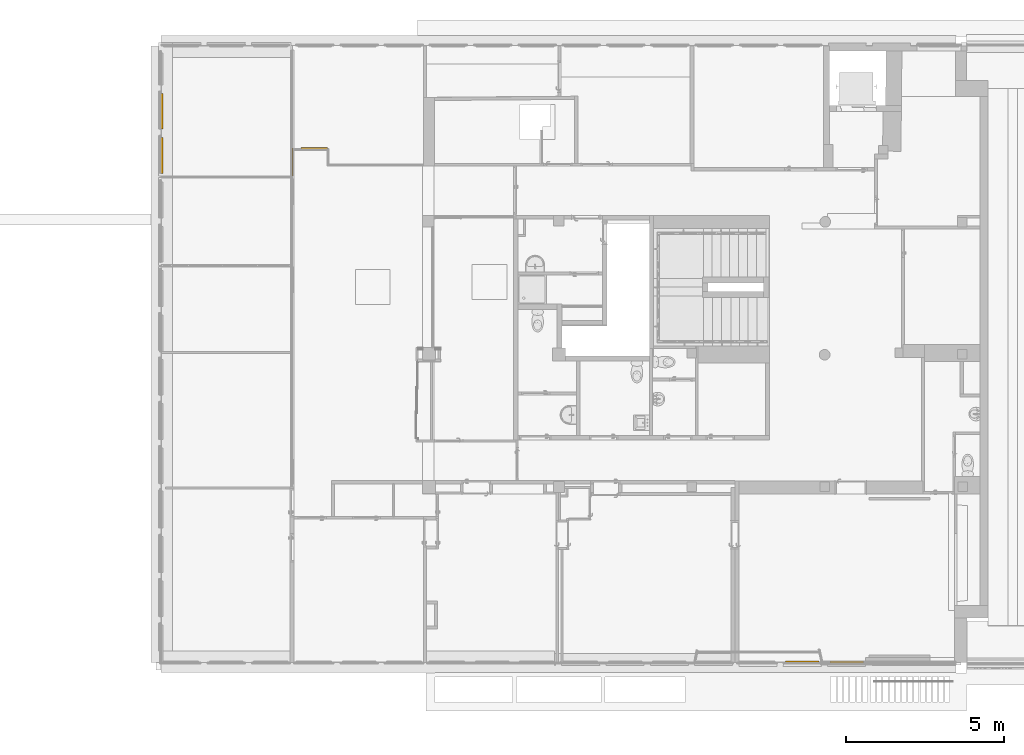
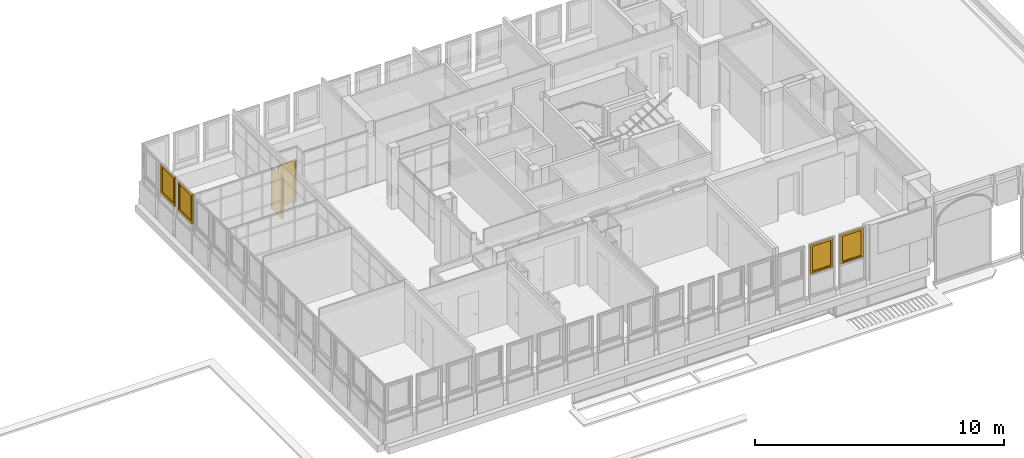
# One storey, part 86 of 97: 4 windows, 2 doors, 6 elements without a shape of their own.
"""IFC4 building model written with IfcOpenShell, lengths in metres."""

from ifc_helpers import new_model, entity, si_unit, converted_unit, derived_unit, direction, frame, origin, place, context, subcontext, project, spatial, indexed_curve, outline, extrude, polygons, source, transform, mapped, material, material_list, constituent, constituent_set, type_object, type_shapes, element, aggregate, save


model = new_model("IFC4")

# Units and contexts
model_context = context("Model", 3, precision=1e-05, world=origin(), true_north=direction((6.12303176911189e-17, 1.0)))
body_context = subcontext(model_context, "Body", "Model", "MODEL_VIEW")
ifc_project = project(units=[si_unit("LENGTHUNIT", "METRE"), si_unit("AREAUNIT", "SQUARE_METRE"), si_unit("VOLUMEUNIT", "CUBIC_METRE"), converted_unit("PLANEANGLEUNIT", "DEGREE", entity("IfcRatioMeasure", 0.0174532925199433), si_unit("PLANEANGLEUNIT", "RADIAN"), dimensions=[0, 0, 0, 0, 0, 0, 0]), si_unit("MASSUNIT", "GRAM", prefix="KILO"), derived_unit("MASSDENSITYUNIT", [(si_unit("MASSUNIT", "GRAM", prefix="KILO"), 1), (si_unit("LENGTHUNIT", "METRE"), -3)]), derived_unit("MOMENTOFINERTIAUNIT", [(si_unit("LENGTHUNIT", "METRE"), 4)]), si_unit("TIMEUNIT", "SECOND"), si_unit("FREQUENCYUNIT", "HERTZ"), si_unit("THERMODYNAMICTEMPERATUREUNIT", "DEGREE_CELSIUS"), derived_unit("THERMALTRANSMITTANCEUNIT", [(si_unit("MASSUNIT", "GRAM", prefix="KILO"), 1), (si_unit("THERMODYNAMICTEMPERATUREUNIT", "KELVIN"), -1), (si_unit("TIMEUNIT", "SECOND"), -3)]), derived_unit("VOLUMETRICFLOWRATEUNIT", [(si_unit("LENGTHUNIT", "METRE"), 3), (si_unit("TIMEUNIT", "SECOND"), -1)]), si_unit("ELECTRICCURRENTUNIT", "AMPERE"), si_unit("ELECTRICVOLTAGEUNIT", "VOLT"), si_unit("POWERUNIT", "WATT"), si_unit("FORCEUNIT", "NEWTON", prefix="KILO"), si_unit("ILLUMINANCEUNIT", "LUX"), si_unit("LUMINOUSFLUXUNIT", "LUMEN"), si_unit("LUMINOUSINTENSITYUNIT", "CANDELA"), derived_unit("USERDEFINED", [(si_unit("MASSUNIT", "GRAM", prefix="KILO"), -1), (si_unit("LENGTHUNIT", "METRE"), -2), (si_unit("TIMEUNIT", "SECOND"), 3), (si_unit("LUMINOUSFLUXUNIT", "LUMEN"), 1)]), derived_unit("LINEARVELOCITYUNIT", [(si_unit("LENGTHUNIT", "METRE"), 1), (si_unit("TIMEUNIT", "SECOND"), -1)]), si_unit("PRESSUREUNIT", "PASCAL"), derived_unit("USERDEFINED", [(si_unit("LENGTHUNIT", "METRE"), -2), (si_unit("MASSUNIT", "GRAM", prefix="KILO"), 1), (si_unit("TIMEUNIT", "SECOND"), -2)]), derived_unit("LINEARFORCEUNIT", [(si_unit("MASSUNIT", "GRAM", prefix="KILO"), 1), (si_unit("LENGTHUNIT", "METRE"), 1), (si_unit("TIMEUNIT", "SECOND"), -2), (si_unit("LENGTHUNIT", "METRE"), -1)]), derived_unit("PLANARFORCEUNIT", [(si_unit("MASSUNIT", "GRAM", prefix="KILO"), 1), (si_unit("LENGTHUNIT", "METRE"), 1), (si_unit("TIMEUNIT", "SECOND"), -2), (si_unit("LENGTHUNIT", "METRE"), -2)])], contexts=[model_context])

# Site, building, storey
site_placement = place(None, origin())
site = spatial("IfcSite", under=ifc_project, at=site_placement, Name="Default", CompositionType="ELEMENT")
building_placement = place(site_placement, origin())
building = spatial("IfcBuilding", under=site, at=building_placement, Name="HOTEL CONSULAIRE BOULOGNE SUR MER", CompositionType="ELEMENT")
storey_placement = place(building_placement, frame((0.0, 0.0, 3.62152697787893)))
storey = spatial("IfcBuildingStorey", under=building, at=storey_placement, Name="Niveau 1", CompositionType="ELEMENT", Elevation=3.62152697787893)

# Curtain wall, window
curtain_wall_type = type_object("IfcCurtainWallType", Name="Mur-rideau:Simple panneau", PredefinedType="NOTDEFINED")
curtain_wall_1_placement = place(storey_placement, frame((0.0, 0.0, -3.62152697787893)))
curtain_wall_1 = element("IfcCurtainWall", 1, at=curtain_wall_1_placement, inside=storey, type_object=curtain_wall_type, Name="Mur-rideau:Simple panneau", ObjectType="Mur-rideau:Simple panneau", PredefinedType="NOTDEFINED")
ifc_material_1 = material(Name="PVC - Blanc", Category="Plastique")
ifc_constituent_1 = constituent(ifc_material_1, Name="PVC - Blanc", Category="Matériaux")
ifc_material_2 = material(Name="Fenêtre - Vitrage", Category="Verre")
ifc_constituent_2 = constituent(ifc_material_2, Name="Fenêtre - Vitrage", Category="Matériaux")
ifc_constituent_set_1 = constituent_set(constituents=[ifc_constituent_1, ifc_constituent_2], Name="MaterialConstituentSet")
ifc_material_list_1 = material_list([ifc_material_1, ifc_material_1])
window_type_1 = type_object("IfcWindowType", Name="MR 1 Vantail:MR 1 Vantail", PartitioningType="NOTDEFINED", PredefinedType="WINDOW", material=ifc_material_list_1)
shared_shape_1 = source(origin(), body_context, "Body", "Tessellation", [
    polygons([(-0.495646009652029, -0.0492408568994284, 0.472033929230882), (-0.484353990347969, -0.0492408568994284, 0.472033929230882), (-0.482966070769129, -0.0492408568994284, 0.470646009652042), (-0.482966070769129, -0.0492408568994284, 0.459332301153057), (-0.484332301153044, -0.0492408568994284, 0.457966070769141), (-0.495667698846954, -0.0492408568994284, 0.457966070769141), (-0.497033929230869, -0.0492408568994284, 0.459332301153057), (-0.497033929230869, -0.0492408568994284, 0.470646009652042), (-0.497033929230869, -0.0615795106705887, 0.470646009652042), (-0.495646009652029, -0.0621544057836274, 0.472033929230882), (-0.497033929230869, -0.0568932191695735, 0.459332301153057), (-0.497033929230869, -0.0635731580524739, 0.452652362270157), (-0.497033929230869, -0.0635731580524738, 0.370000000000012), (-0.497033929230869, -0.0748868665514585, 0.370000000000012), (-0.497033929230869, -0.0748868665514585, 0.457338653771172), (-0.495667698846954, -0.0563273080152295, 0.457966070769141), (-0.484332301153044, -0.0563273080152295, 0.457966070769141), (-0.482966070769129, -0.0568932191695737, 0.459332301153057), (-0.482966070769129, -0.0615795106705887, 0.470646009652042), (-0.482966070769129, -0.0748868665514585, 0.457338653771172), (-0.482966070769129, -0.0748868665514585, 0.370000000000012), (-0.482966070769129, -0.0635731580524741, 0.370000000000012), (-0.482966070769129, -0.0635731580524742, 0.452652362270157), (-0.484353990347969, -0.0621544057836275, 0.472033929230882), (-0.495646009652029, -0.0762747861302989, 0.457913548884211), (-0.495667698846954, -0.0622069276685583, 0.452086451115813), (-0.484332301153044, -0.0622069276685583, 0.452086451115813), (-0.484353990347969, -0.0762747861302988, 0.457913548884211), (-0.495646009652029, -0.0762747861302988, 0.370000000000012), (-0.495667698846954, -0.0622069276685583, 0.370000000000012), (-0.484332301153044, -0.0622069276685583, 0.370000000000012), (-0.484353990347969, -0.0762747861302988, 0.370000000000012)], [[[6, 7, 8, 1, 2, 3, 4, 5]], [[30, 26, 27, 31]], [[9, 10, 1, 8]], [[11, 12, 13, 14, 15, 9, 8, 7]], [[16, 11, 7, 6]], [[16, 6, 5, 17]], [[31, 22, 21, 32, 29, 14, 13, 30]], [[17, 5, 4, 18]], [[3, 19, 20, 21, 22, 23, 18, 4]], [[19, 3, 2, 24]], [[24, 2, 1, 10]], [[15, 25, 10, 9]], [[26, 12, 11, 16]], [[27, 26, 16, 17]], [[27, 17, 18, 23]], [[20, 19, 24, 28]], [[28, 24, 10, 25]], [[29, 25, 15, 14]], [[13, 12, 26, 30]], [[22, 31, 27, 23]], [[32, 21, 20, 28]], [[32, 28, 25, 29]]], closed=True),
    polygons([(-0.497000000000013, -0.0432408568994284, 0.490000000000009), (-0.482999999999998, -0.0432408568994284, 0.490000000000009), (-0.477999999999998, -0.0432408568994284, 0.48500000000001), (-0.477999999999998, -0.0432408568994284, 0.414999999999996), (-0.482999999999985, -0.0432408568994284, 0.410000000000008), (-0.497000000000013, -0.0432408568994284, 0.410000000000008), (-0.501999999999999, -0.0432408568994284, 0.414999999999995), (-0.501999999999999, -0.0432408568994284, 0.48500000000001), (-0.497000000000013, -0.0492408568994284, 0.490000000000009), (-0.501999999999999, -0.0492408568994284, 0.48500000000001), (-0.501999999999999, -0.0492408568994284, 0.414999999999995), (-0.497000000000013, -0.0492408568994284, 0.410000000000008), (-0.482999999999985, -0.0492408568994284, 0.410000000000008), (-0.477999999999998, -0.0492408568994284, 0.414999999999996), (-0.477999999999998, -0.0492408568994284, 0.48500000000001), (-0.482999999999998, -0.0492408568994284, 0.490000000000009)], [[[2, 3, 4, 5, 6, 7, 8, 1]], [[13, 14, 15, 16, 9, 10, 11, 12]], [[9, 1, 8, 10]], [[10, 8, 7, 11]], [[11, 7, 6, 12]], [[12, 6, 5, 13]], [[13, 5, 4, 14]], [[15, 14, 4, 3]], [[15, 3, 2, 16]], [[16, 2, 1, 9]]], closed=True),
    polygons([(0.465000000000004, -0.0192408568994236, 1.32586048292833), (-0.465000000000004, -0.0192408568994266, 1.32586048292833), (-0.465000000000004, -0.0192408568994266, 0.0999999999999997), (0.465000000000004, -0.0192408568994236, 0.0999999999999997), (0.465000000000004, -0.00724085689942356, 1.32586048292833), (0.465000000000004, -0.00724085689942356, 0.0999999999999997), (-0.465000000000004, -0.00724085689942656, 0.0999999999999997), (-0.465000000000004, -0.00724085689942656, 1.32586048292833)], [[[4, 1, 2, 3]], [[7, 8, 5, 6]], [[2, 1, 5, 8]], [[3, 2, 8, 7]], [[4, 3, 7, 6]], [[1, 4, 6, 5]]], closed=True),
    polygons([(-0.515000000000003, 0.0167591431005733, 1.37586048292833), (-0.515000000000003, -0.043240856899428, 1.37586048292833), (0.515000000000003, -0.043240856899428, 1.37586048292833), (0.515000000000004, 0.0167591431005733, 1.37586048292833), (-0.465000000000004, -0.043240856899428, 1.32586048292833), (-0.465000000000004, 0.0167591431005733, 1.32586048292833), (0.465000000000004, 0.0167591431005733, 1.32586048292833), (0.465000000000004, -0.043240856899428, 1.32586048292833), (0.515000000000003, -0.043240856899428, 0.0500000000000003), (0.515000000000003, 0.0167591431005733, 0.0500000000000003), (0.465000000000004, 0.0167591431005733, 0.0999999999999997), (0.465000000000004, -0.043240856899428, 0.0999999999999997), (-0.515000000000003, -0.043240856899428, 0.0500000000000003), (-0.515000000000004, 0.0167591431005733, 0.0500000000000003), (-0.465000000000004, 0.0167591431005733, 0.0999999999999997), (-0.465000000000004, -0.043240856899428, 0.0999999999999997)], [[[1, 2, 3, 4]], [[12, 11, 15, 16]], [[5, 6, 7, 8]], [[10, 9, 13, 14]], [[4, 3, 9, 10]], [[16, 15, 6, 5]], [[8, 7, 11, 12]], [[14, 13, 2, 1]], [[9, 3, 2, 13], [16, 5, 8, 12]], [[14, 1, 4, 10], [11, 7, 6, 15]]], closed=True),
    polygons([(-0.505000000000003, 0.016759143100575, 1.36586048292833), (-0.505000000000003, 0.0267591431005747, 1.36586048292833), (0.505000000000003, 0.0267591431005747, 1.36586048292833), (0.505000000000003, 0.016759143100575, 1.36586048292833), (-0.515000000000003, -0.0432408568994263, 1.37586048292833), (-0.515000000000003, 0.016759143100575, 1.37586048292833), (0.515000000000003, 0.016759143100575, 1.37586048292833), (0.515000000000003, -0.0432408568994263, 1.37586048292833), (-0.565000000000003, 0.0267591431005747, 1.42586048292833), (-0.565000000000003, -0.0432408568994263, 1.42586048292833), (0.565000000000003, -0.0432408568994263, 1.42586048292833), (0.565000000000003, 0.0267591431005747, 1.42586048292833), (0.505000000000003, 0.0267591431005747, 0.0600000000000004), (0.505000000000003, 0.016759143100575, 0.0600000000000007), (0.515000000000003, 0.016759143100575, 0.0500000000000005), (0.515000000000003, -0.0432408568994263, 0.0500000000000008), (0.565000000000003, -0.0432408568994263, 5.41433564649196e-16), (0.565000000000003, 0.0267591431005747, 5.41433564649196e-16), (-0.505000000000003, 0.0267591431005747, 0.0600000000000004), (-0.505000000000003, 0.016759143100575, 0.0600000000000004), (-0.515000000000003, 0.016759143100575, 0.0500000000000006), (-0.515000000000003, -0.0432408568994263, 0.0500000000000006), (-0.565000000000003, -0.0432408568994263, 5.41433564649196e-16), (-0.565000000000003, 0.0267591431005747, 5.41433564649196e-16)], [[[1, 2, 3, 4]], [[5, 6, 7, 8]], [[18, 17, 23, 24]], [[9, 10, 11, 12]], [[14, 13, 19, 20]], [[16, 15, 21, 22]], [[4, 3, 13, 14]], [[8, 7, 15, 16]], [[24, 23, 10, 9]], [[12, 11, 17, 18]], [[20, 19, 2, 1]], [[22, 21, 6, 5]], [[24, 9, 12, 18], [13, 3, 2, 19]], [[15, 7, 6, 21], [20, 1, 4, 14]], [[17, 11, 10, 23], [22, 5, 8, 16]]], closed=True),
])
type_shapes(window_type_1, [shared_shape_1])
window_1_placement = place(curtain_wall_1_placement, frame((-13.7870998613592, -13.5464499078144, 4.79613951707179), z_axis=(0.0, 0.0, 1.0), x_axis=(0.0, 1.0, 0.0)))
window_1 = element("IfcWindow", 2, at=window_1_placement, type_object=window_type_1, material=ifc_constituent_set_1, Name="MR 1 Vantail:MR 1 Vantail", ObjectType="MR 1 Vantail:MR 1 Vantail", OverallHeight=1.42586048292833, OverallWidth=1.13000000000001, PartitioningType="NOTDEFINED", PredefinedType="WINDOW", context=body_context, shape_type="MappedRepresentation", body=[
    mapped(shared_shape_1, transform((0.0, 0.0, 0.0), scale=1.0)),
])
aggregate(curtain_wall_1, [window_1])

curtain_wall_2_placement = place(storey_placement, frame((0.0, 0.0, -3.62152697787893)))
curtain_wall_2 = element("IfcCurtainWall", 3, at=curtain_wall_2_placement, inside=storey, type_object=curtain_wall_type, Name="Mur-rideau:Simple panneau", ObjectType="Mur-rideau:Simple panneau", PredefinedType="NOTDEFINED")
ifc_constituent_3 = constituent(ifc_material_1, Name="PVC - Blanc", Category="Matériaux")
ifc_constituent_4 = constituent(ifc_material_2, Name="Fenêtre - Vitrage", Category="Matériaux")
ifc_constituent_set_2 = constituent_set(constituents=[ifc_constituent_3, ifc_constituent_4], Name="MaterialConstituentSet")
window_2_placement = place(curtain_wall_2_placement, frame((-13.7870998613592, -12.1464499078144, 4.79613951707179), z_axis=(0.0, 0.0, 1.0), x_axis=(0.0, 1.0, 0.0)))
window_2 = element("IfcWindow", 4, at=window_2_placement, type_object=window_type_1, material=ifc_constituent_set_2, Name="MR 1 Vantail:MR 1 Vantail", ObjectType="MR 1 Vantail:MR 1 Vantail", OverallHeight=1.42586048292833, OverallWidth=1.13000000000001, PartitioningType="NOTDEFINED", PredefinedType="WINDOW", context=body_context, shape_type="MappedRepresentation", body=[
    mapped(shared_shape_1, transform((0.0, 0.0, 0.0), scale=1.0)),
])
aggregate(curtain_wall_2, [window_2])

curtain_wall_3_placement = place(storey_placement, frame((0.0, 0.0, -3.62152697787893)))
curtain_wall_3 = element("IfcCurtainWall", 5, at=curtain_wall_3_placement, inside=storey, type_object=curtain_wall_type, Name="Mur-rideau:Simple panneau", ObjectType="Mur-rideau:Simple panneau", PredefinedType="NOTDEFINED")
ifc_constituent_5 = constituent(ifc_material_1, Name="PVC - Blanc", Category="Matériaux")
ifc_constituent_6 = constituent(ifc_material_2, Name="Fenêtre - Vitrage", Category="Matériaux")
ifc_constituent_set_3 = constituent_set(constituents=[ifc_constituent_5, ifc_constituent_6], Name="MaterialConstituentSet")
ifc_material_list_2 = material_list([ifc_material_1, ifc_material_1])
window_type_2 = type_object("IfcWindowType", Name="MR 1 Vantail:MR 1 Vantail", PartitioningType="NOTDEFINED", PredefinedType="WINDOW", material=ifc_material_list_2)
shared_shape_2 = source(origin(), body_context, "Body", "Tessellation", [
    polygons([(-0.460646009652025, -0.0492408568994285, 0.472033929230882), (-0.449353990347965, -0.0492408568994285, 0.472033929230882), (-0.447966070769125, -0.0492408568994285, 0.470646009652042), (-0.447966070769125, -0.0492408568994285, 0.459332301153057), (-0.44933230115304, -0.0492408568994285, 0.457966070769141), (-0.46066769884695, -0.0492408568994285, 0.457966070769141), (-0.462033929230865, -0.0492408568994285, 0.459332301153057), (-0.462033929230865, -0.0492408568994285, 0.470646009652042), (-0.462033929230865, -0.0615795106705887, 0.470646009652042), (-0.460646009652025, -0.0621544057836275, 0.472033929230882), (-0.462033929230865, -0.0568932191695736, 0.459332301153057), (-0.462033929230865, -0.063573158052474, 0.452652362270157), (-0.462033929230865, -0.0635731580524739, 0.370000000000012), (-0.462033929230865, -0.0748868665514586, 0.370000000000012), (-0.462033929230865, -0.0748868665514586, 0.457338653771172), (-0.46066769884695, -0.0563273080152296, 0.457966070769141), (-0.44933230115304, -0.0563273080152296, 0.457966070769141), (-0.447966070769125, -0.0568932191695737, 0.459332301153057), (-0.447966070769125, -0.0615795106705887, 0.470646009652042), (-0.447966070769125, -0.0748868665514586, 0.457338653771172), (-0.447966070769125, -0.0748868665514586, 0.370000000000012), (-0.447966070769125, -0.0635731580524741, 0.370000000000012), (-0.447966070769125, -0.0635731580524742, 0.452652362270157), (-0.449353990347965, -0.0621544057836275, 0.472033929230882), (-0.460646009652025, -0.0762747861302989, 0.457913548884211), (-0.46066769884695, -0.0622069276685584, 0.452086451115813), (-0.44933230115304, -0.0622069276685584, 0.452086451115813), (-0.449353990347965, -0.0762747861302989, 0.457913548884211), (-0.460646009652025, -0.0762747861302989, 0.370000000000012), (-0.46066769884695, -0.0622069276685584, 0.370000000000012), (-0.44933230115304, -0.0622069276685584, 0.370000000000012), (-0.449353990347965, -0.0762747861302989, 0.370000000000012)], [[[6, 7, 8, 1, 2, 3, 4, 5]], [[30, 26, 27, 31]], [[9, 10, 1, 8]], [[11, 12, 13, 14, 15, 9, 8, 7]], [[16, 11, 7, 6]], [[16, 6, 5, 17]], [[31, 22, 21, 32, 29, 14, 13, 30]], [[17, 5, 4, 18]], [[3, 19, 20, 21, 22, 23, 18, 4]], [[19, 3, 2, 24]], [[24, 2, 1, 10]], [[15, 25, 10, 9]], [[26, 12, 11, 16]], [[27, 26, 16, 17]], [[27, 17, 18, 23]], [[20, 19, 24, 28]], [[28, 24, 10, 25]], [[29, 25, 15, 14]], [[13, 12, 26, 30]], [[22, 31, 27, 23]], [[32, 21, 20, 28]], [[32, 28, 25, 29]]], closed=True),
    polygons([(-0.462000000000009, -0.0432408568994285, 0.490000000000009), (-0.447999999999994, -0.0432408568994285, 0.490000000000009), (-0.442999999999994, -0.0432408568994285, 0.48500000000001), (-0.442999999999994, -0.0432408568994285, 0.414999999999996), (-0.447999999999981, -0.0432408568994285, 0.410000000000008), (-0.462000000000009, -0.0432408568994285, 0.410000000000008), (-0.466999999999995, -0.0432408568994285, 0.414999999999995), (-0.466999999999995, -0.0432408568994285, 0.48500000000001), (-0.462000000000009, -0.0492408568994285, 0.490000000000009), (-0.466999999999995, -0.0492408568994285, 0.48500000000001), (-0.466999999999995, -0.0492408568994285, 0.414999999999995), (-0.462000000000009, -0.0492408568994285, 0.410000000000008), (-0.447999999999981, -0.0492408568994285, 0.410000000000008), (-0.442999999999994, -0.0492408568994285, 0.414999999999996), (-0.442999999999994, -0.0492408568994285, 0.48500000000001), (-0.447999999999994, -0.0492408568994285, 0.490000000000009)], [[[2, 3, 4, 5, 6, 7, 8, 1]], [[13, 14, 15, 16, 9, 10, 11, 12]], [[9, 1, 8, 10]], [[10, 8, 7, 11]], [[11, 7, 6, 12]], [[12, 6, 5, 13]], [[13, 5, 4, 14]], [[15, 14, 4, 3]], [[15, 3, 2, 16]], [[16, 2, 1, 9]]], closed=True),
    polygons([(0.43, -0.0192408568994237, 1.32537070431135), (-0.43, -0.0192408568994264, 1.32537070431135), (-0.43, -0.0192408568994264, 0.1), (0.43, -0.0192408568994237, 0.1), (0.43, -0.00724085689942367, 1.32537070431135), (0.43, -0.00724085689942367, 0.1), (-0.43, -0.00724085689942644, 0.1), (-0.43, -0.00724085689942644, 1.32537070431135)], [[[4, 1, 2, 3]], [[7, 8, 5, 6]], [[2, 1, 5, 8]], [[3, 2, 8, 7]], [[4, 3, 7, 6]], [[1, 4, 6, 5]]], closed=True),
    polygons([(-0.48, 0.0167591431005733, 1.37537070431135), (-0.48, -0.043240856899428, 1.37537070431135), (0.479999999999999, -0.043240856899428, 1.37537070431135), (0.479999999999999, 0.0167591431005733, 1.37537070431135), (-0.43, -0.043240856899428, 1.32537070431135), (-0.43, 0.0167591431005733, 1.32537070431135), (0.43, 0.0167591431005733, 1.32537070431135), (0.43, -0.043240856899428, 1.32537070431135), (0.479999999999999, -0.043240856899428, 0.0500000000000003), (0.479999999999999, 0.0167591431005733, 0.0500000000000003), (0.43, 0.0167591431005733, 0.1), (0.43, -0.043240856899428, 0.1), (-0.48, -0.043240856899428, 0.0500000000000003), (-0.479999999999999, 0.0167591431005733, 0.0500000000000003), (-0.43, 0.0167591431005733, 0.1), (-0.43, -0.043240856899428, 0.1)], [[[1, 2, 3, 4]], [[12, 11, 15, 16]], [[5, 6, 7, 8]], [[10, 9, 13, 14]], [[4, 3, 9, 10]], [[16, 15, 6, 5]], [[8, 7, 11, 12]], [[14, 13, 2, 1]], [[9, 3, 2, 13], [16, 5, 8, 12]], [[14, 1, 4, 10], [11, 7, 6, 15]]], closed=True),
    polygons([(-0.469999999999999, 0.016759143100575, 1.36537070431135), (-0.469999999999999, 0.0267591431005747, 1.36537070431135), (0.469999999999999, 0.0267591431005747, 1.36537070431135), (0.469999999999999, 0.016759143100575, 1.36537070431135), (-0.479999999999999, -0.0432408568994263, 1.37537070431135), (-0.479999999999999, 0.016759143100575, 1.37537070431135), (0.479999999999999, 0.016759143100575, 1.37537070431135), (0.479999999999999, -0.0432408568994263, 1.37537070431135), (-0.529999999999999, 0.0267591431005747, 1.42537070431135), (-0.529999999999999, -0.0432408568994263, 1.42537070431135), (0.529999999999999, -0.0432408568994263, 1.42537070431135), (0.529999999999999, 0.0267591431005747, 1.42537070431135), (0.469999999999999, 0.0267591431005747, 0.0600000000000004), (0.469999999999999, 0.016759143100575, 0.0600000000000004), (0.479999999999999, 0.016759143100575, 0.0500000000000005), (0.479999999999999, -0.0432408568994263, 0.0500000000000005), (0.529999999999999, -0.0432408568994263, 5.41433564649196e-16), (0.529999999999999, 0.0267591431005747, 5.41433564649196e-16), (-0.469999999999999, 0.0267591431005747, 0.0600000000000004), (-0.469999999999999, 0.016759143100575, 0.0600000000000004), (-0.479999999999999, 0.016759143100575, 0.0500000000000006), (-0.479999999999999, -0.0432408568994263, 0.0500000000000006), (-0.529999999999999, -0.0432408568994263, 5.41433564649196e-16), (-0.529999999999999, 0.0267591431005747, 5.41433564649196e-16)], [[[1, 2, 3, 4]], [[5, 6, 7, 8]], [[18, 17, 23, 24]], [[9, 10, 11, 12]], [[14, 13, 19, 20]], [[16, 15, 21, 22]], [[4, 3, 13, 14]], [[8, 7, 15, 16]], [[24, 23, 10, 9]], [[12, 11, 17, 18]], [[20, 19, 2, 1]], [[22, 21, 6, 5]], [[24, 9, 12, 18], [13, 3, 2, 19]], [[15, 7, 6, 21], [20, 1, 4, 14]], [[17, 11, 10, 23], [22, 5, 8, 16]]], closed=True),
])
type_shapes(window_type_2, [shared_shape_2])
window_3_placement = place(curtain_wall_3_placement, frame((6.45858002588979, -29.5501047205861, 4.79662929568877), z_axis=(0.0, 0.0, 1.0), x_axis=(-1.0, 0.0, 0.0)))
window_3 = element("IfcWindow", 6, at=window_3_placement, type_object=window_type_2, material=ifc_constituent_set_3, Name="MR 1 Vantail:MR 1 Vantail", ObjectType="MR 1 Vantail:MR 1 Vantail", OverallHeight=1.42537070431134, OverallWidth=1.06, PartitioningType="NOTDEFINED", PredefinedType="WINDOW", context=body_context, shape_type="MappedRepresentation", body=[
    mapped(shared_shape_2, transform((0.0, 0.0, 0.0), scale=1.0)),
])
aggregate(curtain_wall_3, [window_3])

curtain_wall_4_placement = place(storey_placement, frame((0.0, 0.0, -3.62152697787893)))
curtain_wall_4 = element("IfcCurtainWall", 7, at=curtain_wall_4_placement, inside=storey, type_object=curtain_wall_type, Name="Mur-rideau:Simple panneau", ObjectType="Mur-rideau:Simple panneau", PredefinedType="NOTDEFINED")
ifc_constituent_7 = constituent(ifc_material_1, Name="PVC - Blanc", Category="Matériaux")
ifc_constituent_8 = constituent(ifc_material_2, Name="Fenêtre - Vitrage", Category="Matériaux")
ifc_constituent_set_4 = constituent_set(constituents=[ifc_constituent_7, ifc_constituent_8], Name="MaterialConstituentSet")
window_4_placement = place(curtain_wall_4_placement, frame((7.85858002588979, -29.5501047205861, 4.79662929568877), z_axis=(0.0, 0.0, 1.0), x_axis=(-1.0, 0.0, 0.0)))
window_4 = element("IfcWindow", 8, at=window_4_placement, type_object=window_type_2, material=ifc_constituent_set_4, Name="MR 1 Vantail:MR 1 Vantail", ObjectType="MR 1 Vantail:MR 1 Vantail", OverallHeight=1.42537070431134, OverallWidth=1.06, PartitioningType="NOTDEFINED", PredefinedType="WINDOW", context=body_context, shape_type="MappedRepresentation", body=[
    mapped(shared_shape_2, transform((0.0, 0.0, 0.0), scale=1.0)),
])
aggregate(curtain_wall_4, [window_4])

# Curtain wall, door
curtain_wall_5_placement = place(storey_placement, frame((0.0, 0.0, -3.62152697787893)))
curtain_wall_5 = element("IfcCurtainWall", 9, at=curtain_wall_5_placement, inside=storey, type_object=curtain_wall_type, Name="Mur-rideau:Simple panneau", ObjectType="Mur-rideau:Simple panneau", PredefinedType="NOTDEFINED")
ifc_material_3 = material(Name="PVC, souple", Category="Plastique")
ifc_constituent_9 = constituent(ifc_material_3, Name="PVC, souple", Category="Matériaux")
ifc_material_4 = material(Name="Verre", Category="Verre")
ifc_constituent_10 = constituent(ifc_material_4, Name="Verre", Category="Matériaux")
ifc_constituent_set_5 = constituent_set(constituents=[ifc_constituent_9, ifc_constituent_10], Name="MaterialConstituentSet")
ifc_material_5 = material(Name="Porte - Panneau", Category="Bois")
ifc_material_list_3 = material_list([ifc_material_3, ifc_material_5, ifc_material_3, ifc_material_4])
door_type_1 = type_object("IfcDoorType", Name="Simple vitrée 2:Simple vitrée 2", OperationType="SINGLE_SWING_LEFT", PredefinedType="DOOR", material=ifc_material_list_3)
shared_shape_3 = source(origin(), body_context, "Body", "SweptSolid", [
    extrude(outline(indexed_curve([(-0.992980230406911, -0.441999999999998), (1.01798023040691, -0.441999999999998), (1.01798023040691, 0.441999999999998), (-0.992980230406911, 0.441999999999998), (-0.992980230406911, 0.391999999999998), (0.967980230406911, 0.391999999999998), (0.967980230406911, -0.391999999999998), (-0.992980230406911, -0.391999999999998), (-0.992980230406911, -0.441999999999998)], self_intersect=False)), frame((0.0, -0.025, 0.992980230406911), z_axis=(0.0, 1.0, 0.0), x_axis=(0.0, 0.0, 1.0)), (0.0, 0.0, 1.0), 0.07),
    extrude(outline(indexed_curve([(-0.0250000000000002, -0.391999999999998), (0.0249999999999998, -0.391999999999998), (0.0250000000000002, 0.391999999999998), (-0.0249999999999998, 0.391999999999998), (-0.0250000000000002, -0.391999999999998)], self_intersect=False)), frame((0.0, 0.00999999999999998, 0.0), z_axis=(0.0, 0.0, 1.0), x_axis=(0.0, 1.0, 0.0)), (0.0, 0.0, 1.0), 1.96096046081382),
])
type_shapes(door_type_1, [shared_shape_3])
door_1_placement = place(curtain_wall_5_placement, frame((-9.64962464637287, -13.7542596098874, 3.62152697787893), z_axis=(0.0, 0.0, 1.0), x_axis=(0.0, 1.0, 0.0)))
door_1 = element("IfcDoor", 10, at=door_1_placement, type_object=door_type_1, material=ifc_constituent_set_5, Name="Simple vitrée 2:Simple vitrée 2", ObjectType="Simple vitrée 2:Simple vitrée 2", OperationType="SINGLE_SWING_LEFT", OverallHeight=2.01096046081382, OverallWidth=0.883999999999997, PredefinedType="DOOR", context=body_context, shape_type="MappedRepresentation", body=[
    mapped(shared_shape_3, transform((0.0, 0.0, 0.0), scale=1.0)),
])
aggregate(curtain_wall_5, [door_1])

curtain_wall_6_placement = place(storey_placement, frame((0.0, 0.0, -3.62152697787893)))
curtain_wall_6 = element("IfcCurtainWall", 11, at=curtain_wall_6_placement, inside=storey, type_object=curtain_wall_type, Name="Mur-rideau:Simple panneau", ObjectType="Mur-rideau:Simple panneau", PredefinedType="NOTDEFINED")
ifc_constituent_11 = constituent(ifc_material_3, Name="PVC, souple", Category="Matériaux")
ifc_constituent_12 = constituent(ifc_material_4, Name="Verre", Category="Matériaux")
ifc_constituent_set_6 = constituent_set(constituents=[ifc_constituent_11, ifc_constituent_12], Name="MaterialConstituentSet")
ifc_material_list_4 = material_list([ifc_material_3, ifc_material_4, ifc_material_3, ifc_material_5])
door_type_2 = type_object("IfcDoorType", Name="Simple vitrée 2:Simple vitrée 2", OperationType="SINGLE_SWING_LEFT", PredefinedType="DOOR", material=ifc_material_list_4)
shared_shape_4 = source(origin(), body_context, "Body", "SweptSolid", [
    extrude(outline(indexed_curve([(-0.992980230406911, -0.414828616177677), (1.01798023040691, -0.414828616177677), (1.01798023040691, 0.414828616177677), (-0.992980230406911, 0.414828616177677), (-0.992980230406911, 0.364828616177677), (0.967980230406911, 0.364828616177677), (0.967980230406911, -0.364828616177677), (-0.992980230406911, -0.364828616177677), (-0.992980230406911, -0.414828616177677)], self_intersect=False)), frame((0.0, -0.025, 0.992980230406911), z_axis=(0.0, 1.0, 0.0), x_axis=(0.0, 0.0, 1.0)), (0.0, 0.0, 1.0), 0.07),
    extrude(outline(indexed_curve([(-0.0250000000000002, -0.364828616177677), (0.0249999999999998, -0.364828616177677), (0.0250000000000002, 0.364828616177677), (-0.0249999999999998, 0.364828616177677), (-0.0250000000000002, -0.364828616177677)], self_intersect=False)), frame((0.0, 0.00999999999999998, 0.0), z_axis=(0.0, 0.0, 1.0), x_axis=(0.0, 1.0, 0.0)), (0.0, 0.0, 1.0), 1.96096046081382),
])
type_shapes(door_type_2, [shared_shape_4])
door_2_placement = place(curtain_wall_6_placement, frame((-8.9587960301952, -13.3345509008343, 3.62152697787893)))
door_2 = element("IfcDoor", 12, at=door_2_placement, type_object=door_type_2, material=ifc_constituent_set_6, Name="Simple vitrée 2:Simple vitrée 2", ObjectType="Simple vitrée 2:Simple vitrée 2", OperationType="SINGLE_SWING_LEFT", OverallHeight=2.01096046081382, OverallWidth=0.829657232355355, PredefinedType="DOOR", context=body_context, shape_type="MappedRepresentation", body=[
    mapped(shared_shape_4, transform((0.0, 0.0, 0.0), scale=1.0)),
])
aggregate(curtain_wall_6, [door_2])

save(model, "model.ifc")
